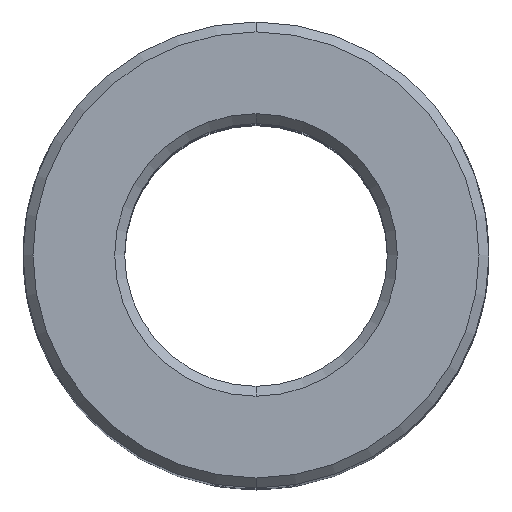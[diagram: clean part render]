
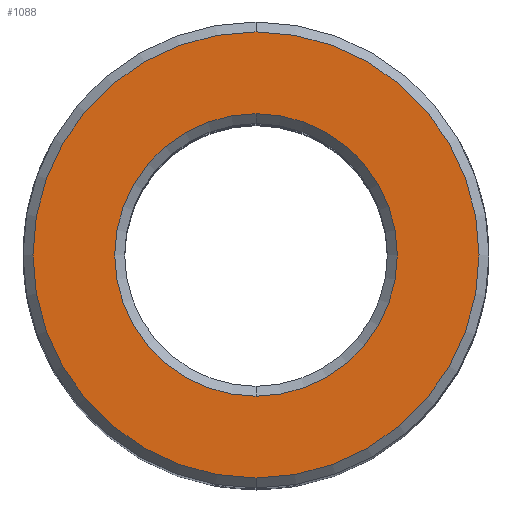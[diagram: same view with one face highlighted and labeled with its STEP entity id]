
A CAD part, top view. The second image highlights one B-rep face of the part: STEP entity #1088.
In plain terms, the highlighted planar face has unit normal (0, 0, 1).
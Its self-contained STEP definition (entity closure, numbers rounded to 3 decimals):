
#2 = CARTESIAN_POINT ( 'NONE',  ( 0., 13.25, 0. ) ) ;
#74 = VERTEX_POINT ( 'NONE', #296 ) ;
#239 = ORIENTED_EDGE ( 'NONE', *, *, #851, .T. ) ;
#274 = EDGE_CURVE ( 'NONE', #1280, #74, #595, .T. ) ;
#296 = CARTESIAN_POINT ( 'NONE',  ( 0., -22.5, 0. ) ) ;
#327 = DIRECTION ( 'NONE',  ( 0., 0., -1. ) ) ;
#362 = EDGE_CURVE ( 'NONE', #74, #1280, #1025, .T. ) ;
#372 = CARTESIAN_POINT ( 'NONE',  ( 0., 14.25, 0. ) ) ;
#382 = EDGE_LOOP ( 'NONE', ( #475, #239 ) ) ;
#402 = AXIS2_PLACEMENT_3D ( 'NONE', #949, #951, #956 ) ;
#436 = CARTESIAN_POINT ( 'NONE',  ( 0., 0., 0. ) ) ;
#465 = CARTESIAN_POINT ( 'NONE',  ( 0., 0., 0. ) ) ;
#475 = ORIENTED_EDGE ( 'NONE', *, *, #1220, .T. ) ;
#480 = AXIS2_PLACEMENT_3D ( 'NONE', #1031, #1044, #1050 ) ;
#495 = AXIS2_PLACEMENT_3D ( 'NONE', #2, #939, #847 ) ;
#519 = EDGE_LOOP ( 'NONE', ( #710, #903 ) ) ;
#549 = DIRECTION ( 'NONE',  ( 0., 0., -1. ) ) ;
#566 = DIRECTION ( 'NONE',  ( 0., 1., 0. ) ) ;
#595 = CIRCLE ( 'NONE', #402, 22.5 ) ;
#656 = CARTESIAN_POINT ( 'NONE',  ( 0., -14.25, 0. ) ) ;
#710 = ORIENTED_EDGE ( 'NONE', *, *, #274, .T. ) ;
#747 = PLANE ( 'NONE',  #495 ) ;
#774 = DIRECTION ( 'NONE',  ( 0., 1., 0. ) ) ;
#798 = AXIS2_PLACEMENT_3D ( 'NONE', #436, #549, #566 ) ;
#820 = VERTEX_POINT ( 'NONE', #372 ) ;
#837 = AXIS2_PLACEMENT_3D ( 'NONE', #465, #327, #774 ) ;
#847 = DIRECTION ( 'NONE',  ( 0., 1., 0. ) ) ;
#851 = EDGE_CURVE ( 'NONE', #820, #1208, #1132, .T. ) ;
#903 = ORIENTED_EDGE ( 'NONE', *, *, #362, .T. ) ;
#939 = DIRECTION ( 'NONE',  ( 0., 0., -1. ) ) ;
#949 = CARTESIAN_POINT ( 'NONE',  ( 0., 0., 0. ) ) ;
#951 = DIRECTION ( 'NONE',  ( 0., 0., 1. ) ) ;
#956 = DIRECTION ( 'NONE',  ( 0., 1., 0. ) ) ;
#1025 = CIRCLE ( 'NONE', #480, 22.5 ) ;
#1031 = CARTESIAN_POINT ( 'NONE',  ( 0., 0., 0. ) ) ;
#1044 = DIRECTION ( 'NONE',  ( 0., 0., 1. ) ) ;
#1050 = DIRECTION ( 'NONE',  ( 0., 1., 0. ) ) ;
#1064 = CARTESIAN_POINT ( 'NONE',  ( 0., 22.5, 0. ) ) ;
#1088 = ADVANCED_FACE ( 'NONE', ( #1197, #1163 ), #747, .F. ) ;
#1132 = CIRCLE ( 'NONE', #798, 14.25 ) ;
#1163 = FACE_OUTER_BOUND ( 'NONE', #519, .T. ) ;
#1197 = FACE_BOUND ( 'NONE', #382, .T. ) ;
#1208 = VERTEX_POINT ( 'NONE', #656 ) ;
#1220 = EDGE_CURVE ( 'NONE', #1208, #820, #1355, .T. ) ;
#1280 = VERTEX_POINT ( 'NONE', #1064 ) ;
#1355 = CIRCLE ( 'NONE', #837, 14.25 ) ;
